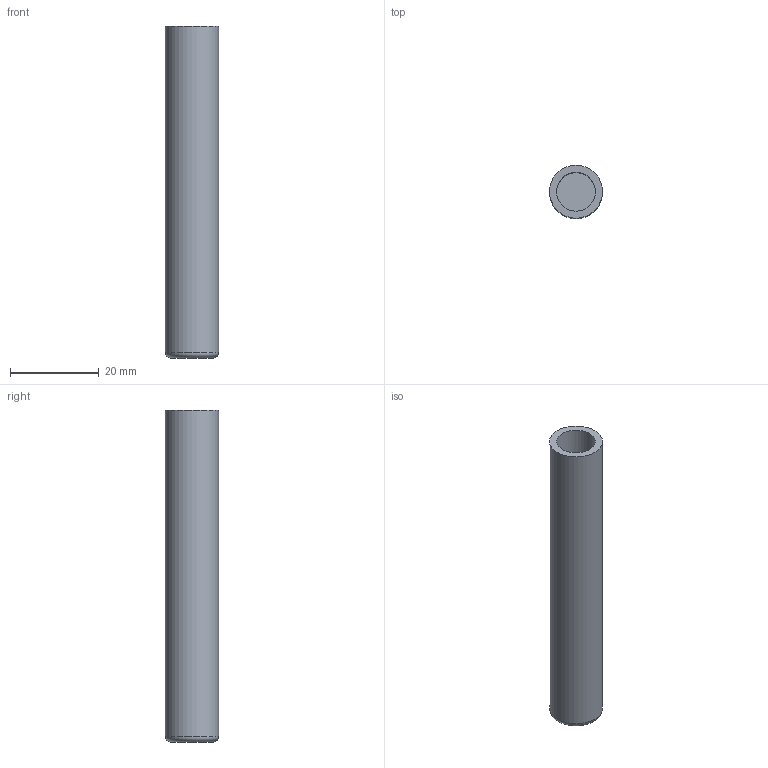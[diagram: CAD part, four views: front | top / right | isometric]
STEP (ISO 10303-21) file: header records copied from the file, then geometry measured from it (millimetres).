
FILE_DESCRIPTION(('Open CASCADE Model'),'2;1');
FILE_NAME('Open CASCADE Shape Model','2026-10-21T17:23:48',('Author'),( 'Open CASCADE'),'Open CASCADE STEP processor 7.9','Open CASCADE 7.9' ,'Unknown');
FILE_SCHEMA(('AUTOMOTIVE_DESIGN { 1 0 10303 214 1 1 1 1 }'));
Length unit declared in the file: millimetre
Products named in the file (1): Open CASCADE STEP translator 7.9 9
Bounding box: 12 x 12 x 75 mm (x, y, z)
Volume: 4031.2 mm3; surface area: 5051.7 mm2
Topology: 1 solids, 1 shells, 6 faces, 8 edges, 5 vertices
Faces by surface type: plane 3, cylinder 2, torus 1
Full cylindrical faces by diameter (mm): 8.8 x1, 12 x1
Entity records: 247 total; most frequent: DIRECTION 43, CARTESIAN_POINT 42, ORIENTED_EDGE 16, PCURVE 16, DEFINITIONAL_REPRESENTATION 16, LINE 14, VECTOR 14, AXIS2_PLACEMENT_3D 13
